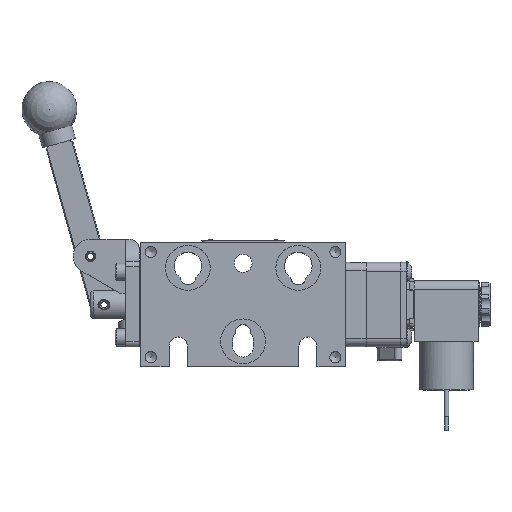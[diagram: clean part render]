
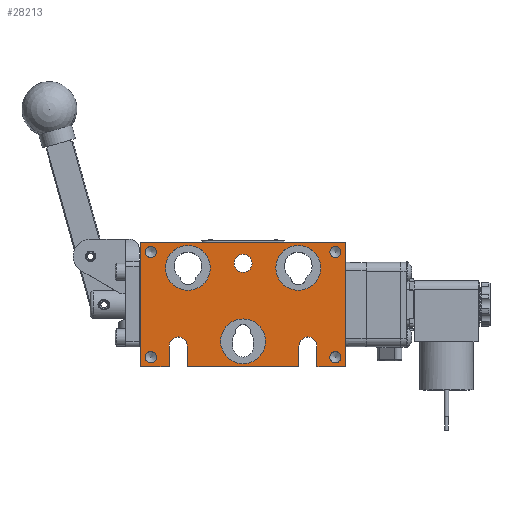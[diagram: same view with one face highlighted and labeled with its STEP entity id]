
A CAD part, top view. The second image highlights one B-rep face of the part: STEP entity #28213.
In plain terms, the highlighted planar face has unit normal (0, 0, 1).
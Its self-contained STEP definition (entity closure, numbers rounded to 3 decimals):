
#1096=FACE_BOUND('',#4895,.T.);
#1097=FACE_BOUND('',#4896,.T.);
#1098=FACE_BOUND('',#4897,.T.);
#1099=FACE_BOUND('',#4898,.T.);
#1100=FACE_BOUND('',#4899,.T.);
#1101=FACE_BOUND('',#4900,.T.);
#1102=FACE_BOUND('',#4901,.T.);
#1103=FACE_BOUND('',#4902,.T.);
#1747=PLANE('',#31172);
#3141=FACE_OUTER_BOUND('',#4894,.T.);
#4894=EDGE_LOOP('',(#23447,#23448,#23449,#23450,#23451,#23452,#23453,#23454,
#23455,#23456,#23457,#23458));
#4895=EDGE_LOOP('',(#23459));
#4896=EDGE_LOOP('',(#23460));
#4897=EDGE_LOOP('',(#23461));
#4898=EDGE_LOOP('',(#23462));
#4899=EDGE_LOOP('',(#23463));
#4900=EDGE_LOOP('',(#23464));
#4901=EDGE_LOOP('',(#23465));
#4902=EDGE_LOOP('',(#23466));
#6606=CIRCLE('',#31173,0.417);
#6607=CIRCLE('',#31174,0.417);
#6608=CIRCLE('',#31175,0.417);
#6609=CIRCLE('',#31176,1.031);
#6610=CIRCLE('',#31177,1.031);
#6611=CIRCLE('',#31178,1.031);
#6612=CIRCLE('',#31179,0.258);
#6613=CIRCLE('',#31180,0.258);
#6614=CIRCLE('',#31181,0.258);
#6615=CIRCLE('',#31182,0.258);
#8522=LINE('',#49691,#10368);
#8523=LINE('',#49693,#10369);
#8524=LINE('',#49695,#10370);
#8525=LINE('',#49697,#10371);
#8526=LINE('',#49701,#10372);
#8527=LINE('',#49703,#10373);
#8528=LINE('',#49705,#10374);
#8529=LINE('',#49709,#10375);
#8530=LINE('',#49711,#10376);
#8531=LINE('',#49712,#10377);
#10368=VECTOR('',#38586,1.);
#10369=VECTOR('',#38587,1.);
#10370=VECTOR('',#38588,1.);
#10371=VECTOR('',#38589,1.);
#10372=VECTOR('',#38592,1.);
#10373=VECTOR('',#38593,1.);
#10374=VECTOR('',#38594,1.);
#10375=VECTOR('',#38597,1.);
#10376=VECTOR('',#38598,1.);
#10377=VECTOR('',#38599,1.);
#12667=VERTEX_POINT('',#49689);
#12668=VERTEX_POINT('',#49690);
#12669=VERTEX_POINT('',#49692);
#12670=VERTEX_POINT('',#49694);
#12671=VERTEX_POINT('',#49696);
#12672=VERTEX_POINT('',#49698);
#12673=VERTEX_POINT('',#49700);
#12674=VERTEX_POINT('',#49702);
#12675=VERTEX_POINT('',#49704);
#12676=VERTEX_POINT('',#49706);
#12677=VERTEX_POINT('',#49708);
#12678=VERTEX_POINT('',#49710);
#12679=VERTEX_POINT('',#49713);
#12680=VERTEX_POINT('',#49715);
#12681=VERTEX_POINT('',#49717);
#12682=VERTEX_POINT('',#49719);
#12683=VERTEX_POINT('',#49721);
#12684=VERTEX_POINT('',#49723);
#12685=VERTEX_POINT('',#49725);
#12686=VERTEX_POINT('',#49727);
#16352=EDGE_CURVE('',#12667,#12668,#8522,.T.);
#16353=EDGE_CURVE('',#12669,#12667,#8523,.T.);
#16354=EDGE_CURVE('',#12670,#12669,#8524,.T.);
#16355=EDGE_CURVE('',#12671,#12670,#8525,.T.);
#16356=EDGE_CURVE('',#12672,#12671,#6606,.T.);
#16357=EDGE_CURVE('',#12673,#12672,#8526,.T.);
#16358=EDGE_CURVE('',#12674,#12673,#8527,.T.);
#16359=EDGE_CURVE('',#12675,#12674,#8528,.T.);
#16360=EDGE_CURVE('',#12676,#12675,#6607,.T.);
#16361=EDGE_CURVE('',#12677,#12676,#8529,.T.);
#16362=EDGE_CURVE('',#12678,#12677,#8530,.T.);
#16363=EDGE_CURVE('',#12668,#12678,#8531,.T.);
#16364=EDGE_CURVE('',#12679,#12679,#6608,.T.);
#16365=EDGE_CURVE('',#12680,#12680,#6609,.T.);
#16366=EDGE_CURVE('',#12681,#12681,#6610,.T.);
#16367=EDGE_CURVE('',#12682,#12682,#6611,.T.);
#16368=EDGE_CURVE('',#12683,#12683,#6612,.T.);
#16369=EDGE_CURVE('',#12684,#12684,#6613,.T.);
#16370=EDGE_CURVE('',#12685,#12685,#6614,.T.);
#16371=EDGE_CURVE('',#12686,#12686,#6615,.T.);
#23447=ORIENTED_EDGE('',*,*,#16352,.F.);
#23448=ORIENTED_EDGE('',*,*,#16353,.F.);
#23449=ORIENTED_EDGE('',*,*,#16354,.F.);
#23450=ORIENTED_EDGE('',*,*,#16355,.F.);
#23451=ORIENTED_EDGE('',*,*,#16356,.F.);
#23452=ORIENTED_EDGE('',*,*,#16357,.F.);
#23453=ORIENTED_EDGE('',*,*,#16358,.F.);
#23454=ORIENTED_EDGE('',*,*,#16359,.F.);
#23455=ORIENTED_EDGE('',*,*,#16360,.F.);
#23456=ORIENTED_EDGE('',*,*,#16361,.F.);
#23457=ORIENTED_EDGE('',*,*,#16362,.F.);
#23458=ORIENTED_EDGE('',*,*,#16363,.F.);
#23459=ORIENTED_EDGE('',*,*,#16364,.T.);
#23460=ORIENTED_EDGE('',*,*,#16365,.T.);
#23461=ORIENTED_EDGE('',*,*,#16366,.T.);
#23462=ORIENTED_EDGE('',*,*,#16367,.T.);
#23463=ORIENTED_EDGE('',*,*,#16368,.T.);
#23464=ORIENTED_EDGE('',*,*,#16369,.T.);
#23465=ORIENTED_EDGE('',*,*,#16370,.T.);
#23466=ORIENTED_EDGE('',*,*,#16371,.T.);
#28213=ADVANCED_FACE('',(#3141,#1096,#1097,#1098,#1099,#1100,#1101,#1102,
#1103),#1747,.T.);
#31172=AXIS2_PLACEMENT_3D('',#49688,#38584,#38585);
#31173=AXIS2_PLACEMENT_3D('',#49699,#38590,#38591);
#31174=AXIS2_PLACEMENT_3D('',#49707,#38595,#38596);
#31175=AXIS2_PLACEMENT_3D('',#49714,#38600,#38601);
#31176=AXIS2_PLACEMENT_3D('',#49716,#38602,#38603);
#31177=AXIS2_PLACEMENT_3D('',#49718,#38604,#38605);
#31178=AXIS2_PLACEMENT_3D('',#49720,#38606,#38607);
#31179=AXIS2_PLACEMENT_3D('',#49722,#38608,#38609);
#31180=AXIS2_PLACEMENT_3D('',#49724,#38610,#38611);
#31181=AXIS2_PLACEMENT_3D('',#49726,#38612,#38613);
#31182=AXIS2_PLACEMENT_3D('',#49728,#38614,#38615);
#38584=DIRECTION('center_axis',(0.,0.,1.));
#38585=DIRECTION('ref_axis',(1.,0.,0.));
#38586=DIRECTION('',(1.,0.,0.));
#38587=DIRECTION('',(0.,1.,0.));
#38588=DIRECTION('',(-1.,0.,0.));
#38589=DIRECTION('',(0.,-1.,0.));
#38590=DIRECTION('center_axis',(0.,0.,1.));
#38591=DIRECTION('ref_axis',(1.,0.,0.));
#38592=DIRECTION('',(0.,1.,0.));
#38593=DIRECTION('',(-1.,0.,0.));
#38594=DIRECTION('',(0.,-1.,0.));
#38595=DIRECTION('center_axis',(0.,0.,1.));
#38596=DIRECTION('ref_axis',(1.,0.,0.));
#38597=DIRECTION('',(0.,1.,0.));
#38598=DIRECTION('',(-1.,0.,0.));
#38599=DIRECTION('',(0.,-1.,0.));
#38600=DIRECTION('center_axis',(0.,0.,-1.));
#38601=DIRECTION('ref_axis',(1.,0.,0.));
#38602=DIRECTION('center_axis',(0.,0.,-1.));
#38603=DIRECTION('ref_axis',(-1.,0.,0.));
#38604=DIRECTION('center_axis',(0.,0.,-1.));
#38605=DIRECTION('ref_axis',(-1.,0.,0.));
#38606=DIRECTION('center_axis',(0.,0.,-1.));
#38607=DIRECTION('ref_axis',(-1.,0.,0.));
#38608=DIRECTION('center_axis',(0.,0.,-1.));
#38609=DIRECTION('ref_axis',(1.,0.,0.));
#38610=DIRECTION('center_axis',(0.,0.,-1.));
#38611=DIRECTION('ref_axis',(1.,0.,0.));
#38612=DIRECTION('center_axis',(0.,0.,-1.));
#38613=DIRECTION('ref_axis',(1.,0.,0.));
#38614=DIRECTION('center_axis',(0.,0.,-1.));
#38615=DIRECTION('ref_axis',(1.,0.,0.));
#49688=CARTESIAN_POINT('Origin',(0.,-0.247,
1.666));
#49689=CARTESIAN_POINT('',(-4.712,2.858,1.666));
#49690=CARTESIAN_POINT('',(4.712,2.858,1.666));
#49691=CARTESIAN_POINT('',(-4.712,2.858,1.666));
#49692=CARTESIAN_POINT('',(-4.712,-2.858,1.666));
#49693=CARTESIAN_POINT('',(-4.712,-2.858,1.666));
#49694=CARTESIAN_POINT('',(-3.401,-2.858,1.666));
#49695=CARTESIAN_POINT('',(-3.401,-2.858,1.666));
#49696=CARTESIAN_POINT('',(-3.401,-1.905,1.666));
#49697=CARTESIAN_POINT('',(-3.401,-1.905,1.666));
#49698=CARTESIAN_POINT('',(-2.568,-1.905,1.666));
#49699=CARTESIAN_POINT('Origin',(-2.985,-1.905,1.666));
#49700=CARTESIAN_POINT('',(-2.568,-2.858,1.666));
#49701=CARTESIAN_POINT('',(-2.568,-2.858,1.666));
#49702=CARTESIAN_POINT('',(2.568,-2.858,1.666));
#49703=CARTESIAN_POINT('',(2.568,-2.858,1.666));
#49704=CARTESIAN_POINT('',(2.568,-1.905,1.666));
#49705=CARTESIAN_POINT('',(2.568,-1.905,1.666));
#49706=CARTESIAN_POINT('',(3.401,-1.905,1.666));
#49707=CARTESIAN_POINT('Origin',(2.985,-1.905,1.666));
#49708=CARTESIAN_POINT('',(3.401,-2.857,1.666));
#49709=CARTESIAN_POINT('',(3.401,-2.857,1.666));
#49710=CARTESIAN_POINT('',(4.712,-2.858,1.666));
#49711=CARTESIAN_POINT('',(4.712,-2.858,1.666));
#49712=CARTESIAN_POINT('',(4.712,2.858,1.666));
#49713=CARTESIAN_POINT('',(-0.417,1.905,1.666));
#49714=CARTESIAN_POINT('Origin',(0.,1.905,1.666));
#49715=CARTESIAN_POINT('',(3.571,1.689,1.666));
#49716=CARTESIAN_POINT('Origin',(2.54,1.689,1.666));
#49717=CARTESIAN_POINT('',(1.031,-1.689,1.666));
#49718=CARTESIAN_POINT('Origin',(0.,-1.689,1.666));
#49719=CARTESIAN_POINT('',(-1.509,1.689,1.666));
#49720=CARTESIAN_POINT('Origin',(-2.54,1.689,1.666));
#49721=CARTESIAN_POINT('',(3.989,-2.421,1.666));
#49722=CARTESIAN_POINT('Origin',(4.247,-2.421,1.666));
#49723=CARTESIAN_POINT('',(-4.502,-2.421,1.666));
#49724=CARTESIAN_POINT('Origin',(-4.244,-2.421,1.666));
#49725=CARTESIAN_POINT('',(3.989,2.421,1.666));
#49726=CARTESIAN_POINT('Origin',(4.247,2.421,1.666));
#49727=CARTESIAN_POINT('',(-4.502,2.421,1.666));
#49728=CARTESIAN_POINT('Origin',(-4.244,2.421,1.666));
